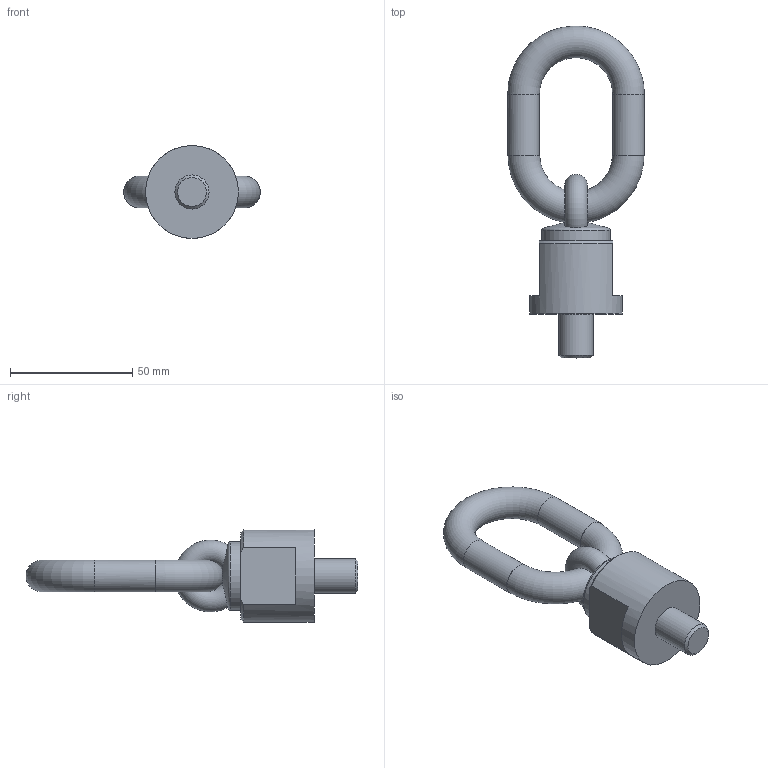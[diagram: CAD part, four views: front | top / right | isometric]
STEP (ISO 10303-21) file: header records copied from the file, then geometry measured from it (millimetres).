
FILE_DESCRIPTION( ( 'STEP AP203' ), '1' );
FILE_NAME( 'p:/temp/worker_15/temp/app_43_0201906261453110550636010e898ce_000000_00_00_000000/format_2/C800X0071218.stp', '2019-06-26T12:53:11', ( '' ), ( '' ), ' ', 'PARTsolutions', ' ' );
FILE_SCHEMA( ( 'CONFIG_CONTROL_DESIGN' ) );
Length unit declared in the file: millimetre
Products named in the file (1): _C800X0071218
Bounding box: 56 x 135.98 x 38 mm (x, y, z)
Volume: 65049.5 mm3; surface area: 15107.6 mm2
Topology: 1 solids, 1 shells, 27 faces, 65 edges, 40 vertices
Faces by surface type: plane 13, torus 5, cylinder 5, cone 4
Full cylindrical faces by diameter (mm): 13 x2, 14 x1, 28.2 x1, 38 x1
Entity records: 1036 total; most frequent: CARTESIAN_POINT 455, DIRECTION 114, ORIENTED_EDGE 94, AXIS2_PLACEMENT_3D 53, EDGE_CURVE 47, EDGE_LOOP 40, FACE_OUTER_BOUND 36, VERTEX_POINT 34
